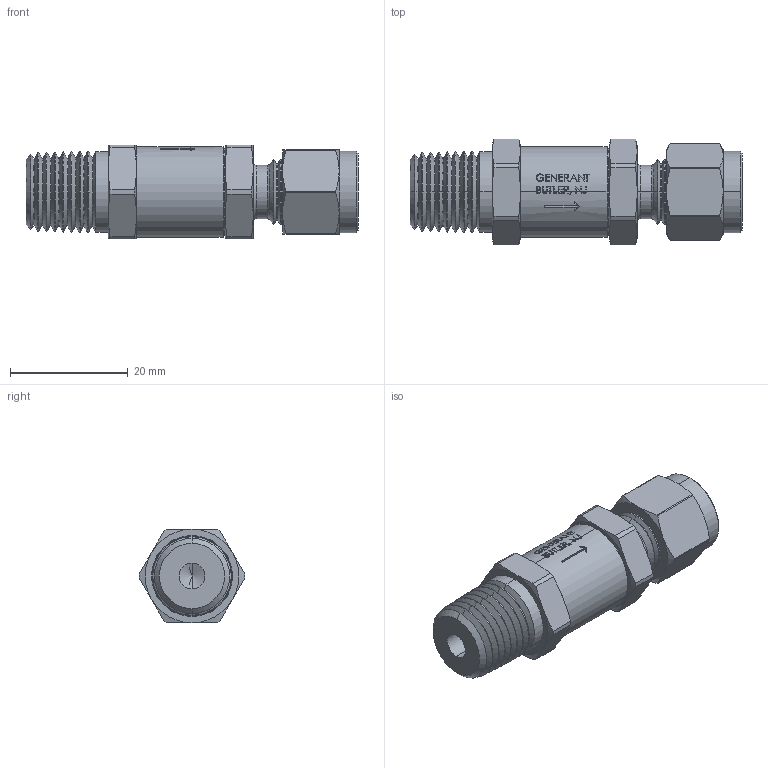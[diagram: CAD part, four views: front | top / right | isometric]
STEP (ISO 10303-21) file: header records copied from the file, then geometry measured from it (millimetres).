
FILE_DESCRIPTION (( 'STEP AP203' ), '1' );
FILE_NAME ('PCV-4PT.STEP', '2019-07-19T13:53:11', ( '' ), ( '' ), 'SwSTEP 2.0', 'SolidWorks 2011', '' );
FILE_SCHEMA (( 'CONFIG_CONTROL_DESIGN' ));
Length unit declared in the file: inch
Products named in the file (2): Part1^PCV-4PTSS-V-3_CM; PCV-4PT
Assembly tree (1 placements, depth 2):
  PCV-4PT
    Part1^PCV-4PTSS-V-3_CM
Bounding box: 56.32 x 17.91 x 15.88 mm (x, y, z)
Volume: 8450.4 mm3; surface area: 4891.8 mm2
Topology: 1 solids, 2 shells, 431 faces, 1100 edges, 694 vertices
Faces by surface type: plane 159, cone 122, cylinder 76, bspline 74
Entity records: 17884 total; most frequent: CARTESIAN_POINT 7643, ORIENTED_EDGE 2192, DIRECTION 1960, EDGE_CURVE 1096, AXIS2_PLACEMENT_3D 723, VERTEX_POINT 694, VECTOR 514, LINE 514
